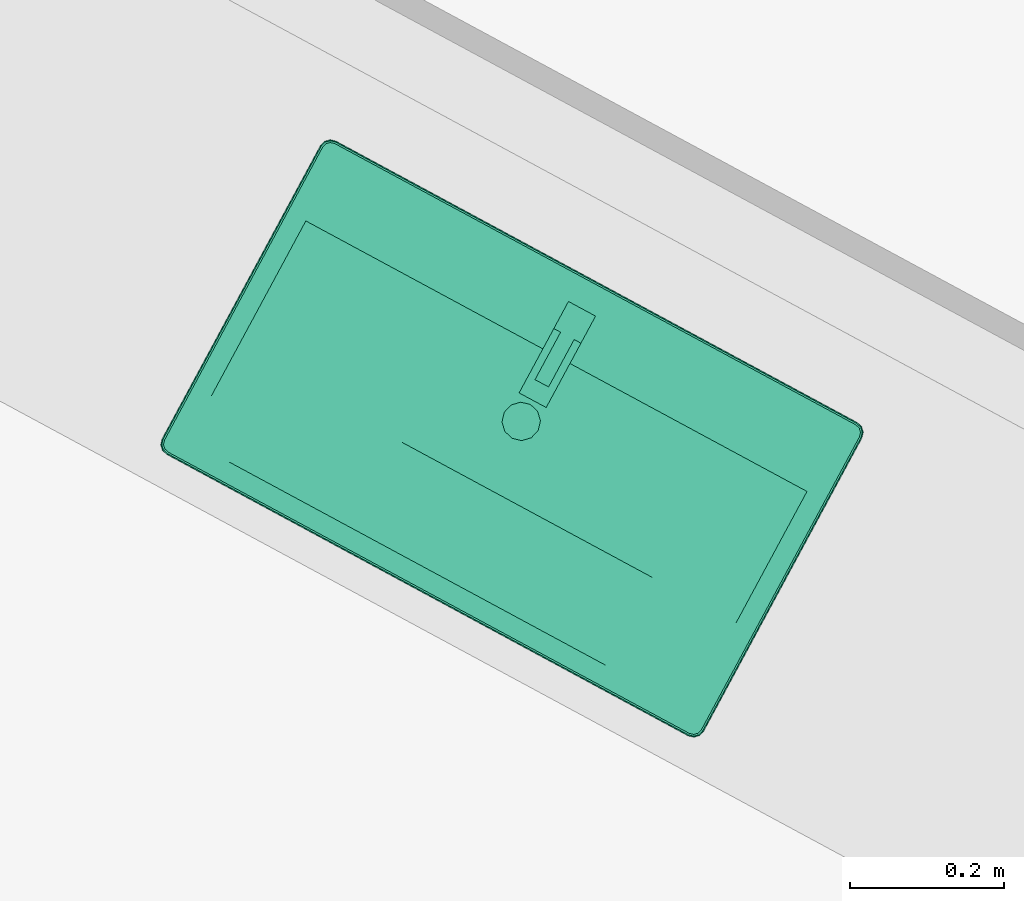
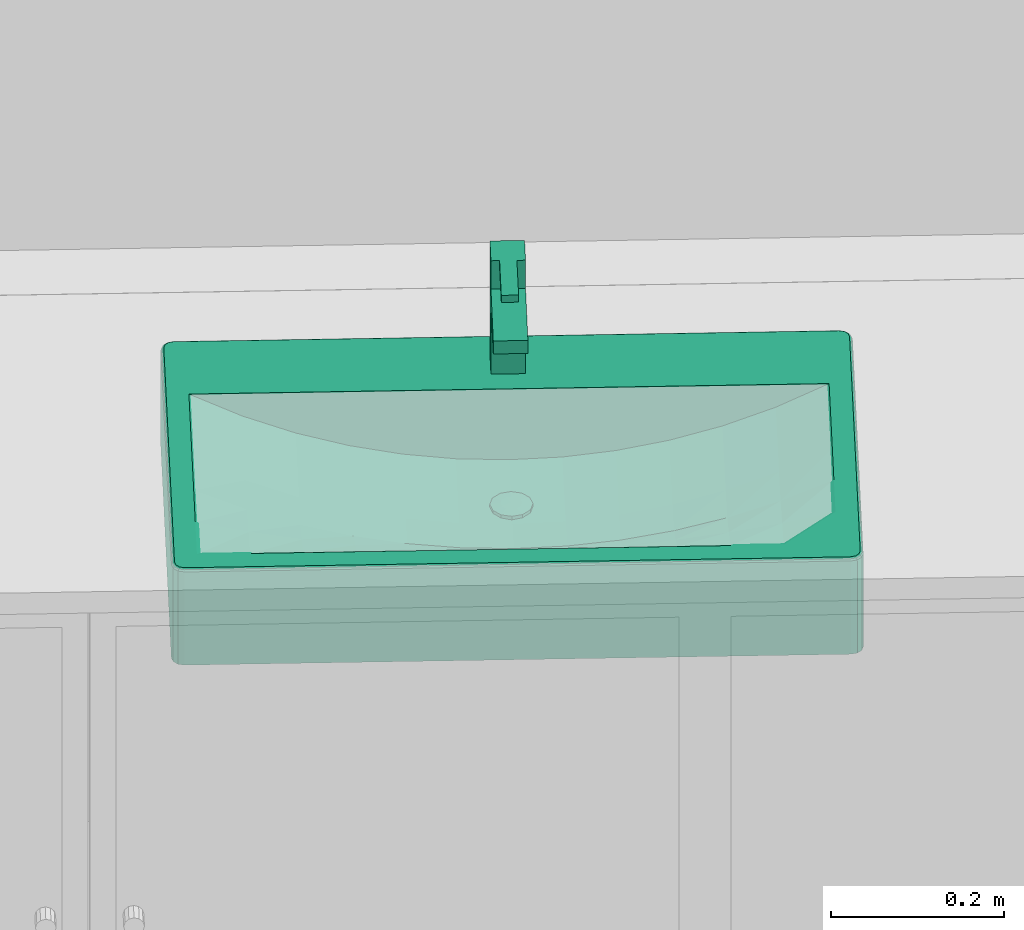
# One storey, part 19 of 41: 1 flow terminal.
"""IFC2X3 building model written with IfcOpenShell, lengths in metres."""

from ifc_helpers import new_model, entity, si_unit, converted_unit, derived_unit, money_unit, direction, frame, origin_with_axes, place, context, subcontext, project, spatial, open_shell, faceted_brep, surface_model, type_object, element, save


model = new_model("IFC2X3")

# Units and contexts
model_context = context("Model", 3, precision=1e-05, world=origin_with_axes(), true_north=direction((0.0, 1.0)))
body_context = subcontext(model_context, "Body", "Model", "MODEL_VIEW")
ifc_project = project(units=[si_unit("LENGTHUNIT", "METRE"), si_unit("AREAUNIT", "SQUARE_METRE"), si_unit("VOLUMEUNIT", "CUBIC_METRE"), converted_unit("PLANEANGLEUNIT", "DEGREE", entity("IfcPlaneAngleMeasure", 0.0174532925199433), si_unit("PLANEANGLEUNIT", "RADIAN"), dimensions=[0, 0, 0, 0, 0, 0, 0]), money_unit("EUR"), converted_unit("TIMEUNIT", "Year", entity("IfcTimeMeasure", 31556926.0), si_unit("TIMEUNIT", "SECOND"), dimensions=[0, 0, 1, 0, 0, 0, 0]), si_unit("MASSUNIT", "GRAM", prefix="KILO"), si_unit("THERMODYNAMICTEMPERATUREUNIT", "DEGREE_CELSIUS"), si_unit("LUMINOUSINTENSITYUNIT", "LUMEN"), si_unit("ENERGYUNIT", "JOULE", prefix="MEGA"), derived_unit("THERMALCONDUCTANCEUNIT", [(si_unit("POWERUNIT", "WATT"), 1), (si_unit("LENGTHUNIT", "METRE"), -1), (si_unit("THERMODYNAMICTEMPERATUREUNIT", "KELVIN"), -1)]), derived_unit("SPECIFICHEATCAPACITYUNIT", [(si_unit("ENERGYUNIT", "JOULE"), 1), (si_unit("MASSUNIT", "GRAM", prefix="KILO"), -1), (si_unit("THERMODYNAMICTEMPERATUREUNIT", "KELVIN"), -1)]), derived_unit("MASSDENSITYUNIT", [(si_unit("MASSUNIT", "GRAM", prefix="KILO"), 1), (si_unit("VOLUMEUNIT", "CUBIC_METRE"), -1)])], contexts=[model_context])

# Site, building, storey
site_placement = place(None, frame((-3.949935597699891, 1.740105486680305, 0.0), z_axis=(0.0, 0.0, 1.0), x_axis=(0.8799804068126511, -0.475009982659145, 0.0)))
site = spatial("IfcSite", under=ifc_project, at=site_placement, Name="Gelände", CompositionType="ELEMENT")
building_placement = place(site_placement, origin_with_axes())
building = spatial("IfcBuilding", under=site, at=building_placement, Name="Gebäude", CompositionType="ELEMENT")
storey_placement = place(building_placement, frame((0.0, 0.0, 4.55), z_axis=(0.0, 0.0, 1.0), x_axis=(1.0, 0.0, 0.0)))
storey = spatial("IfcBuildingStorey", under=building, at=storey_placement, Name="Staffelgeschoss", CompositionType="ELEMENT", Elevation=4.55)

# Flow terminal
sanitary_terminal_type = type_object("IfcSanitaryTerminalType", Name="Waschbecken 1 22", PredefinedType="NOTDEFINED")
flow_terminal_placement = place(storey_placement, frame((20.58690113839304, 4.431900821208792, 0.0), z_axis=(0.0, 0.0, 1.0), x_axis=(1.0, 0.0, 0.0)))
element("IfcFlowTerminal", 1, at=flow_terminal_placement, inside=storey, type_object=sanitary_terminal_type, Name="Objekt-0061", context=body_context, shape_type="SurfaceModel", body=[
    faceted_brep([(0.385, -0.4629798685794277, 0.715), (-0.385, -0.4629798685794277, 0.715), (-0.3925, -0.4609702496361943, 0.715), (-0.3979903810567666, -0.4554798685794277, 0.715), (-0.4, -0.4479798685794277, 0.715), (-0.4, -0.01500000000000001, 0.715), (-0.3979903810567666, -0.007500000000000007, 0.715), (-0.3925, -0.002009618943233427, 0.715), (-0.385, 0.0, 0.715), (0.385, 0.0, 0.715), (0.3925, -0.002009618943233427, 0.715), (0.3979903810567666, -0.007500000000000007, 0.715), (0.4, -0.01500000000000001, 0.715), (0.4, -0.4479798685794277, 0.715), (0.3979903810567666, -0.4554798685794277, 0.715), (0.3925, -0.4609702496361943, 0.715), (-0.37, -0.4329798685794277, 0.715), (0.37, -0.4329798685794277, 0.715), (0.37, -0.11, 0.715), (-0.37, -0.11, 0.715), (0.3849999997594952, -0.4629798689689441, 0.845), (-0.3849999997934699, -0.4629798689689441, 0.845), (-0.3925000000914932, -0.4609702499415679, 0.845), (-0.3979903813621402, -0.4554798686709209, 0.845), (-0.4000000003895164, -0.4479798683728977, 0.845), (-0.4000000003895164, -0.01499999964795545, 0.845), (-0.3979903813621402, -0.007500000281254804, 0.845), (-0.3925000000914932, -0.002009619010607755, 0.845), (-0.3849999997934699, 0.0, 0.845), (0.3849999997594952, 0.0, 0.845), (0.3925000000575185, -0.002009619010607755, 0.845), (0.3979903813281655, -0.007500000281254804, 0.845), (0.4000000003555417, -0.01499999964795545, 0.845), (0.4000000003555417, -0.4479798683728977, 0.845), (0.3979903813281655, -0.4554798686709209, 0.845), (0.3925000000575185, -0.4609702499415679, 0.845), (-0.37, -0.4329798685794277, 0.84999999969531), (0.37, -0.4329798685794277, 0.84999999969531), (0.37, -0.11, 0.84999999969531), (-0.37, -0.11, 0.84999999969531), (0.3849775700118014, -0.4628094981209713, 0.8462940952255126), (-0.3849775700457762, -0.4628094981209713, 0.8462940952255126), (-0.3924118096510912, -0.4608174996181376, 0.8462940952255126), (-0.3978376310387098, -0.4553916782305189, 0.8462940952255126), (-0.3998296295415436, -0.4479574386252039, 0.8462940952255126), (-0.3998296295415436, -0.01502242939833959, 0.8462940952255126), (-0.3978376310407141, -0.007588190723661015, 0.8462940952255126), (-0.3924118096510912, -0.002162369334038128, 0.8462940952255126), (-0.3849775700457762, -0.0001703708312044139, 0.8462940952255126), (0.3849775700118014, -0.0001703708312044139, 0.8462940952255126), (0.3924118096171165, -0.002162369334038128, 0.8462940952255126), (0.3978376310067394, -0.007588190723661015, 0.8462940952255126), (0.3998296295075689, -0.01502242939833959, 0.8462940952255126), (0.3998296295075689, -0.4479574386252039, 0.8462940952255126), (0.3978376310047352, -0.4553916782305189, 0.8462940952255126), (0.3924118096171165, -0.4608174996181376, 0.8462940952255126), (-0.3843417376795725, -0.004999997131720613, 0.84999999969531), (-0.3899118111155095, -0.006492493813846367, 0.84999999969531), (-0.3935075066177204, -0.01008818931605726, 0.84999999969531), (-0.3950000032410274, -0.01565826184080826, 0.84999999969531), (-0.3950000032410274, -0.4473216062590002, 0.84999999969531), (-0.3935075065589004, -0.4528916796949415, 0.84999999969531), (-0.3899118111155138, -0.4564873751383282, 0.84999999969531), (-0.3843417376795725, -0.4579798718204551, 0.84999999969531), (0.3843417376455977, -0.4579798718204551, 0.84999999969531), (0.3899118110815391, -0.4564873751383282, 0.84999999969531), (0.3935075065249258, -0.4528916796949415, 0.84999999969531), (0.3950000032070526, -0.4473216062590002, 0.84999999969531), (0.3950000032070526, -0.01565826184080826, 0.84999999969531), (0.3935075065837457, -0.01008818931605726, 0.84999999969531), (0.3899118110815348, -0.006492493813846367, 0.84999999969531), (0.3843417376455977, -0.004999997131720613, 0.84999999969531), (0.3848071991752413, -0.4615154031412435, 0.8485355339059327), (-0.384807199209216, -0.4615154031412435, 0.8485355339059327), (-0.3917419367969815, -0.4596572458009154, 0.8485355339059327), (-0.3966773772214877, -0.4547218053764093, 0.8485355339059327), (-0.3985355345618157, -0.4477870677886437, 0.8485355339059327), (-0.3985355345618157, -0.01519280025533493, 0.8485355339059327), (-0.3966773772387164, -0.00825806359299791, 0.8485355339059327), (-0.3917419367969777, -0.003322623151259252, 0.8485355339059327), (-0.384807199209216, -0.001464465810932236, 0.8485355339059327), (0.3848071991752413, -0.001464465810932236, 0.8485355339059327), (0.391741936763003, -0.003322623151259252, 0.8485355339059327), (0.3966773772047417, -0.00825806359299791, 0.8485355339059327), (0.398535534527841, -0.01519280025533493, 0.8485355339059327), (0.398535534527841, -0.4477870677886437, 0.8485355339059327), (0.396677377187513, -0.4547218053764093, 0.8485355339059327), (0.3917419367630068, -0.4596572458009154, 0.8485355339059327), (-0.3905816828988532, -0.005332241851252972, 0.8498296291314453), (-0.3845121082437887, -0.003705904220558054, 0.8498296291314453), (-0.3946677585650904, -0.009418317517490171, 0.8498296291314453), (-0.3962940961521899, -0.01548789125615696, 0.8498296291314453), (-0.3962940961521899, -0.4474919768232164, 0.8498296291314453), (-0.3946677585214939, -0.453561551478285, 0.8498296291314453), (-0.3905816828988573, -0.4576476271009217, 0.8498296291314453), (-0.3845121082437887, -0.4592739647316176, 0.8498296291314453), (0.3845121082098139, -0.4592739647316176, 0.8498296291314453), (0.3905816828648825, -0.4576476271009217, 0.8498296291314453), (0.3946677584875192, -0.453561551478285, 0.8498296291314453), (0.3962940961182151, -0.4474919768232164, 0.8498296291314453), (0.3962940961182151, -0.01548789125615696, 0.8498296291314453), (0.3946677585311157, -0.009418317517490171, 0.8498296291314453), (0.3905816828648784, -0.005332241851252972, 0.8498296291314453), (0.3845121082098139, -0.003705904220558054, 0.8498296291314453)], [[[0, 1, 2, 3, 4, 5, 6, 7, 8, 9, 10, 11, 12, 13, 14, 15], [16, 17, 18, 19]], [[0, 20, 21, 1]], [[1, 21, 22, 2]], [[2, 22, 23, 3]], [[3, 23, 24, 4]], [[4, 24, 25, 5]], [[5, 25, 26, 6]], [[6, 26, 27, 7]], [[7, 27, 28, 8]], [[8, 28, 29, 9]], [[9, 29, 30, 10]], [[10, 30, 31, 11]], [[11, 31, 32, 12]], [[12, 32, 33, 13]], [[13, 33, 34, 14]], [[14, 34, 35, 15]], [[15, 35, 20, 0]], [[36, 37, 17, 16]], [[37, 38, 18, 17]], [[38, 39, 19, 18]], [[39, 36, 16, 19]], [[20, 40, 41, 21]], [[21, 41, 42, 22]], [[22, 42, 43, 23]], [[23, 43, 44, 24]], [[24, 44, 45, 25]], [[25, 45, 46, 26]], [[26, 46, 47, 27]], [[27, 47, 48, 28]], [[28, 48, 49, 29]], [[29, 49, 50, 30]], [[30, 50, 51, 31]], [[31, 51, 52, 32]], [[32, 52, 53, 33]], [[33, 53, 54, 34]], [[34, 54, 55, 35]], [[35, 55, 40, 20]], [[56, 57, 58, 59, 60, 61, 62, 63, 64, 65, 66, 67, 68, 69, 70, 71], [36, 39, 38, 37]], [[40, 72, 73, 41]], [[41, 73, 74, 42]], [[42, 74, 75, 43]], [[43, 75, 76, 44]], [[44, 76, 77, 45]], [[45, 77, 78, 46]], [[46, 78, 79, 47]], [[47, 79, 80, 48]], [[48, 80, 81, 49]], [[49, 81, 82, 50]], [[50, 82, 83, 51]], [[51, 83, 84, 52]], [[52, 84, 85, 53]], [[53, 85, 86, 54]], [[54, 86, 87, 55]], [[55, 87, 72, 40]], [[88, 57, 56, 89]], [[90, 58, 57, 88]], [[91, 59, 58, 90]], [[92, 60, 59, 91]], [[93, 61, 60, 92]], [[94, 62, 61, 93]], [[95, 63, 62, 94]], [[96, 64, 63, 95]], [[97, 65, 64, 96]], [[98, 66, 65, 97]], [[99, 67, 66, 98]], [[100, 68, 67, 99]], [[101, 69, 68, 100]], [[102, 70, 69, 101]], [[103, 71, 70, 102]], [[89, 56, 71, 103]], [[72, 96, 95, 73]], [[73, 95, 94, 74]], [[74, 94, 93, 75]], [[75, 93, 92, 76]], [[76, 92, 91, 77]], [[77, 91, 90, 78]], [[78, 90, 88, 79]], [[79, 88, 89, 80]], [[80, 89, 103, 81]], [[81, 103, 102, 82]], [[82, 102, 101, 83]], [[83, 101, 100, 84]], [[84, 100, 99, 85]], [[85, 99, 98, 86]], [[86, 98, 97, 87]], [[87, 97, 96, 72]]]),
    faceted_brep([(-0.37, -0.4329798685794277, 0.715), (-0.37, -0.11, 0.715), (0.37, -0.11, 0.715), (0.37, -0.4329798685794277, 0.715), (0.01249999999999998, -0.2279082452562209, 0.715), (0.02165063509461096, -0.21875761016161, 0.715), (0.025, -0.20625761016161, 0.715), (0.02165063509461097, -0.1937576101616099, 0.715), (0.01250000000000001, -0.184606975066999, 0.715), (0.0, -0.18125761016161, 0.715), (-0.01249999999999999, -0.184606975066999, 0.715), (-0.02165063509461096, -0.1937576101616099, 0.715), (-0.025, -0.2062576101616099, 0.715), (-0.02165063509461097, -0.2187576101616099, 0.715), (-0.01250000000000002, -0.2279082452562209, 0.715), (0.0, -0.2312576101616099, 0.715), (-0.37, -0.3037879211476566, 0.85), (-0.37, -0.2391919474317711, 0.85), (-0.37, -0.1745959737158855, 0.85), (-0.37, -0.11, 0.85), (-0.37, -0.4329798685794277, 0.85), (-0.37, -0.3683838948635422, 0.85), (0.1850000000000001, -0.11, 0.7736798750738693), (0.2466666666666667, -0.11, 0.7926576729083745), (0.3083333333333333, -0.11, 0.8178510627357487), (0.37, -0.11, 0.8499999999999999), (-0.3083333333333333, -0.11, 0.8178510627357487), (-0.2466666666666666, -0.11, 0.7926576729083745), (-0.185, -0.11, 0.7736798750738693), (-0.1233333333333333, -0.11, 0.7604287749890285), (-0.06166666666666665, -0.11, 0.7525932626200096), (0.0, -0.11, 0.75), (0.0616666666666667, -0.11, 0.7525932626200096), (0.1233333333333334, -0.11, 0.7604287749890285), (0.37, -0.2391919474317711, 0.8499999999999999), (0.37, -0.3037879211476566, 0.8499999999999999), (0.37, -0.3683838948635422, 0.85), (0.37, -0.4329798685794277, 0.85), (0.37, -0.1745959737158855, 0.8499999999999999), (-0.185, -0.4329798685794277, 0.85), (-0.2466666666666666, -0.4329798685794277, 0.85), (-0.3083333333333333, -0.4329798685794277, 0.85), (0.3083333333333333, -0.4329798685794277, 0.85), (0.2466666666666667, -0.4329798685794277, 0.85), (0.1850000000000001, -0.4329798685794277, 0.85), (0.1233333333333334, -0.4329798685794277, 0.85), (0.0616666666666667, -0.4329798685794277, 0.85), (0.0, -0.4329798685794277, 0.85), (-0.06166666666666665, -0.4329798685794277, 0.85), (-0.1233333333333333, -0.4329798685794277, 0.85), (0.01249999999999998, -0.2279082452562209, 0.7505256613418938), (0.02165063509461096, -0.21875761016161, 0.7509104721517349), (0.025, -0.20625761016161, 0.7510513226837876), (0.02165063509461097, -0.1937576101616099, 0.7509104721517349), (0.01250000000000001, -0.184606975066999, 0.7505256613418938), (0.0, -0.18125761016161, 0.75), (-0.01249999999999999, -0.184606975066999, 0.7505256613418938), (-0.02165063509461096, -0.1937576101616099, 0.7509104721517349), (-0.025, -0.2062576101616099, 0.7510513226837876), (-0.02165063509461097, -0.2187576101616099, 0.7509104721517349), (-0.01250000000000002, -0.2279082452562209, 0.7505256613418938), (0.0, -0.2312576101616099, 0.75), (-0.3083333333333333, -0.2391919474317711, 0.8178510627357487), (-0.3083333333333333, -0.1745959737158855, 0.8178510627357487), (-0.3083333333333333, -0.3683838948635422, 0.8353632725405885), (-0.3083333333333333, -0.3037879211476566, 0.8214477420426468), (0.2466666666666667, -0.1745959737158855, 0.7926576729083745), (0.1850000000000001, -0.1745959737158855, 0.7736798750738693), (0.3083333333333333, -0.1745959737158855, 0.8178510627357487), (-0.2466666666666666, -0.1745959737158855, 0.7926576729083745), (-0.185, -0.1745959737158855, 0.7736798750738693), (-0.1233333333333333, -0.1745959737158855, 0.7604287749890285), (-0.06166666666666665, -0.1745959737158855, 0.7525932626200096), (0.0, -0.1745959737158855, 0.75), (0.0616666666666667, -0.1745959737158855, 0.7525932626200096), (0.1233333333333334, -0.1745959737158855, 0.7604287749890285), (0.3083333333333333, -0.3037879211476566, 0.8214477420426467), (0.3083333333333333, -0.3683838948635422, 0.8353632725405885), (0.3083333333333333, -0.2391919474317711, 0.8178510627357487), (-0.185, -0.3683838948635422, 0.814335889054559), (-0.2466666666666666, -0.3683838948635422, 0.8234977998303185), (0.2466666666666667, -0.3683838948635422, 0.8234977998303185), (0.1850000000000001, -0.3683838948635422, 0.814335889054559), (0.1233333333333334, -0.3683838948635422, 0.8078267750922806), (0.0616666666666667, -0.3683838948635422, 0.8039351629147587), (0.0, -0.3683838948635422, 0.8026402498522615), (-0.06166666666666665, -0.3683838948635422, 0.8039351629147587), (-0.1233333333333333, -0.3683838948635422, 0.8078267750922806), (0.0, -0.2391919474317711, 0.75), (0.0616666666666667, -0.2391919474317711, 0.7525932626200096), (-0.06166666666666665, -0.2391919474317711, 0.7525932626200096), (-0.2466666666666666, -0.2391919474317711, 0.7926576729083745), (0.2466666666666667, -0.2391919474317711, 0.7926576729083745), (0.1850000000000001, -0.2391919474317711, 0.7736798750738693), (-0.185, -0.2391919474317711, 0.7736798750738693), (-0.1233333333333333, -0.2391919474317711, 0.7604287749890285), (0.1233333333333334, -0.2391919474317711, 0.7604287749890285), (0.0, -0.3037879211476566, 0.7603000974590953), (-0.06166666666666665, -0.3037879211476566, 0.7626568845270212), (-0.2466666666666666, -0.3037879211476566, 0.7988745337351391), (0.1850000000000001, -0.3037879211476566, 0.7817653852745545), (0.2466666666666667, -0.3037879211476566, 0.798874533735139), (-0.185, -0.3037879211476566, 0.7817653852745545), (-0.1233333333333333, -0.3037879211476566, 0.7697689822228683), (0.0616666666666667, -0.3037879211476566, 0.7626568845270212), (0.1233333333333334, -0.3037879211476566, 0.7697689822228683)], [[[0, 1, 2, 3], [4, 5, 6, 7, 8, 9, 10, 11, 12, 13, 14, 15]], [[16, 17, 18, 19, 1, 0, 20, 21]], [[22, 23, 24, 25, 2, 1, 19, 26, 27, 28, 29, 30, 31, 32, 33]], [[34, 35, 36, 37, 3, 2, 25, 38]], [[39, 40, 41, 20, 0, 3, 37, 42, 43, 44, 45, 46, 47, 48, 49]], [[50, 51, 5, 4]], [[51, 52, 6, 5]], [[52, 53, 7, 6]], [[53, 54, 8, 7]], [[54, 55, 9, 8]], [[55, 56, 10, 9]], [[56, 57, 11, 10]], [[57, 58, 12, 11]], [[58, 59, 13, 12]], [[59, 60, 14, 13]], [[60, 61, 15, 14]], [[61, 50, 4, 15]], [[16, 62, 17]], [[62, 63, 18, 17]], [[63, 26, 19, 18]], [[20, 64, 21]], [[21, 65, 16]], [[66, 23, 22, 67]], [[68, 24, 23, 66]], [[38, 25, 24, 68]], [[69, 27, 26, 63]], [[70, 28, 27, 69]], [[71, 29, 28, 70]], [[72, 30, 29, 71]], [[73, 31, 30, 72]], [[74, 32, 31, 73]], [[75, 33, 32, 74]], [[67, 22, 33, 75]], [[76, 35, 34]], [[77, 36, 35]], [[42, 37, 36]], [[34, 38, 68, 78]], [[40, 39, 79]], [[41, 40, 80]], [[20, 41, 64]], [[43, 42, 77]], [[44, 43, 81]], [[45, 44, 82]], [[46, 45, 83]], [[47, 46, 84]], [[48, 47, 85]], [[49, 48, 86]], [[39, 49, 87]], [[54, 53, 52, 51, 50, 61, 88, 89, 74, 73, 55]], [[56, 55, 73, 72, 90, 88, 61, 60, 59, 58, 57]], [[16, 65, 62]], [[91, 69, 63, 62]], [[21, 64, 65]], [[92, 66, 67, 93]], [[78, 68, 66, 92]], [[94, 70, 69, 91]], [[95, 71, 70, 94]], [[90, 72, 71, 95]], [[96, 75, 74, 89]], [[93, 67, 75, 96]], [[77, 35, 76]], [[76, 34, 78]], [[42, 36, 77]], [[39, 87, 79]], [[40, 79, 80]], [[41, 80, 64]], [[43, 77, 81]], [[44, 81, 82]], [[45, 82, 83]], [[46, 83, 84]], [[47, 84, 85]], [[48, 85, 86]], [[49, 86, 87]], [[97, 89, 88]], [[98, 88, 90]], [[65, 91, 62]], [[64, 99, 65]], [[100, 92, 93]], [[101, 78, 92]], [[99, 94, 91]], [[102, 95, 94]], [[103, 90, 95]], [[104, 96, 89]], [[105, 93, 96]], [[81, 77, 76]], [[101, 76, 78]], [[79, 87, 103]], [[80, 79, 102]], [[64, 80, 99]], [[82, 81, 101]], [[83, 82, 100]], [[84, 83, 105]], [[85, 84, 104]], [[86, 85, 97]], [[87, 86, 98]], [[97, 104, 89]], [[98, 97, 88]], [[103, 98, 90]], [[65, 99, 91]], [[100, 101, 92]], [[105, 100, 93]], [[99, 102, 94]], [[102, 103, 95]], [[104, 105, 96]], [[81, 76, 101]], [[87, 98, 103]], [[79, 103, 102]], [[80, 102, 99]], [[82, 101, 100]], [[83, 100, 105]], [[84, 105, 104]], [[85, 104, 97]], [[86, 97, 98]]]),
    faceted_brep([(0.02165063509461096, -0.21875761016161, 0.75), (0.01249999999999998, -0.2279082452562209, 0.75), (0.0, -0.2312576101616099, 0.75), (-0.01250000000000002, -0.2279082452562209, 0.75), (-0.02165063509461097, -0.2187576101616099, 0.75), (-0.025, -0.2062576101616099, 0.75), (-0.02165063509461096, -0.1937576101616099, 0.75), (-0.01249999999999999, -0.184606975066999, 0.75), (0.0, -0.18125761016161, 0.75), (0.01250000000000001, -0.184606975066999, 0.75), (0.02165063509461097, -0.1937576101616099, 0.75), (0.025, -0.20625761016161, 0.75), (0.02165063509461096, -0.21875761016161, 0.755), (0.01249999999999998, -0.2279082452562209, 0.755), (0.0, -0.2312576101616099, 0.755), (-0.01250000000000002, -0.2279082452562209, 0.755), (-0.02165063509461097, -0.2187576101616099, 0.755), (-0.025, -0.2062576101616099, 0.755), (-0.02165063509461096, -0.1937576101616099, 0.755), (-0.01249999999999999, -0.184606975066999, 0.755), (0.0, -0.18125761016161, 0.755), (0.01250000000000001, -0.184606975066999, 0.755), (0.02165063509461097, -0.1937576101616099, 0.755), (0.025, -0.20625761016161, 0.755)], [[[0, 1, 2, 3, 4, 5, 6, 7, 8, 9, 10, 11]], [[1, 0, 12, 13]], [[2, 1, 13, 14]], [[3, 2, 14, 15]], [[4, 3, 15, 16]], [[5, 4, 16, 17]], [[6, 5, 17, 18]], [[7, 6, 18, 19]], [[8, 7, 19, 20]], [[9, 8, 20, 21]], [[10, 9, 21, 22]], [[11, 10, 22, 23]], [[0, 11, 23, 12]], [[12, 23, 22, 21, 20, 19, 18, 17, 16, 15, 14, 13]]]),
    surface_model("IfcShellBasedSurfaceModel", [(0.0, -0.20625761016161, 0.757), (0.0, -0.19363570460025, 0.7564975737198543), (-0.006310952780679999, -0.1953267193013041, 0.7564975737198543), (0.006310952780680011, -0.1953267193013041, 0.7564975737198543), (0.0, -0.18125761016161, 0.755), (-0.0125, -0.184606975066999, 0.755), (-0.01093089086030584, -0.19994665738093, 0.7564975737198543), (0.01093089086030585, -0.19994665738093, 0.7564975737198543), (0.01250000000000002, -0.184606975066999, 0.755), (-0.02165063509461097, -0.1937576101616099, 0.755), (-0.01262190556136, -0.20625761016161, 0.7564975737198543), (0.01262190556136, -0.20625761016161, 0.7564975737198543), (0.02165063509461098, -0.19375761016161, 0.755), (-0.025, -0.20625761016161, 0.755), (-0.01093089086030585, -0.21256856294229, 0.7564975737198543), (0.01093089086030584, -0.21256856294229, 0.7564975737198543), (0.025, -0.20625761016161, 0.755), (-0.02165063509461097, -0.2187576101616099, 0.755), (-0.006310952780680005, -0.2171885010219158, 0.7564975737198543), (0.006310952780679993, -0.2171885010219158, 0.7564975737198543), (0.02165063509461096, -0.21875761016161, 0.755), (-0.01250000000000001, -0.2279082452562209, 0.755), (0.0, -0.21887951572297, 0.7564975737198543), (0.01249999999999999, -0.2279082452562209, 0.755), (0.0, -0.2312576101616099, 0.755)], [open_shell([[[0, 1, 2]], [[0, 3, 1]], [[2, 1, 4, 5]], [[0, 2, 6]], [[0, 7, 3]], [[1, 3, 8, 4]], [[6, 2, 5, 9]], [[0, 6, 10]], [[0, 11, 7]], [[3, 7, 12, 8]], [[10, 6, 9, 13]], [[0, 10, 14]], [[0, 15, 11]], [[7, 11, 16, 12]], [[14, 10, 13, 17]], [[0, 14, 18]], [[0, 19, 15]], [[11, 15, 20, 16]], [[18, 14, 17, 21]], [[0, 18, 22]], [[0, 22, 19]], [[15, 19, 23, 20]], [[22, 18, 21, 24]], [[19, 22, 24, 23]]])]),
    faceted_brep([(0.02, -0.03999999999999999, 0.85), (0.02, -0.08, 0.85), (-0.02, -0.08, 0.85), (-0.02, -0.04, 0.85), (0.02000000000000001, -0.03999999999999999, 0.97), (0.02000000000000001, -0.08, 0.97), (0.02000000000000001, -0.175, 0.9633569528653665), (0.02000000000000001, -0.175, 0.945), (0.02000000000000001, -0.08, 0.945), (-0.01999999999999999, -0.08, 0.945), (-0.01999999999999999, -0.175, 0.945), (-0.01999999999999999, -0.175, 0.9633569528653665), (-0.01999999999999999, -0.08, 0.97), (-0.01999999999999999, -0.04, 0.97)], [[[0, 1, 2, 3]], [[0, 4, 5, 6, 7, 8, 1]], [[1, 8, 9, 2]], [[3, 2, 9, 10, 11, 12, 13]], [[4, 0, 3, 13]], [[5, 4, 13, 12]], [[6, 5, 12, 11]], [[7, 6, 11, 10]], [[8, 7, 10, 9]]]),
    faceted_brep([(0.02, -0.03999999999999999, 0.97), (0.02, -0.08, 0.97), (-0.02, -0.08, 0.97), (-0.02, -0.04, 0.97), (0.02, -0.03999999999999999, 1.01), (0.02, -0.08, 1.01), (-0.01999999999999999, -0.08, 1.01), (-0.02, -0.04, 1.01)], [[[0, 1, 2, 3]], [[0, 4, 5, 1]], [[1, 5, 6, 2]], [[3, 2, 6, 7]], [[4, 0, 3, 7]], [[5, 4, 7, 6]]]),
    faceted_brep([(0.01, -0.08, 1.0), (0.01000000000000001, -0.15, 1.0), (-0.009999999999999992, -0.15, 1.0), (-0.009999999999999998, -0.08, 1.0), (0.01, -0.08, 1.01), (0.01000000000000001, -0.15, 1.01), (-0.009999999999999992, -0.15, 1.01), (-0.009999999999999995, -0.08, 1.01)], [[[0, 1, 2, 3]], [[0, 4, 5, 1]], [[1, 5, 6, 2]], [[3, 2, 6, 7]], [[4, 0, 3, 7]], [[5, 4, 7, 6]]]),
])

save(model, "model.ifc")
